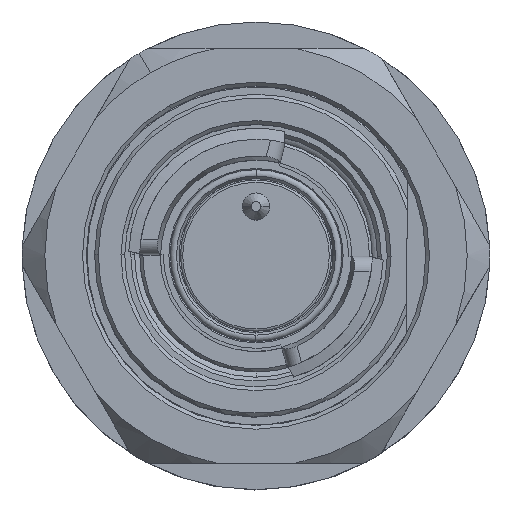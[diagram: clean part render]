
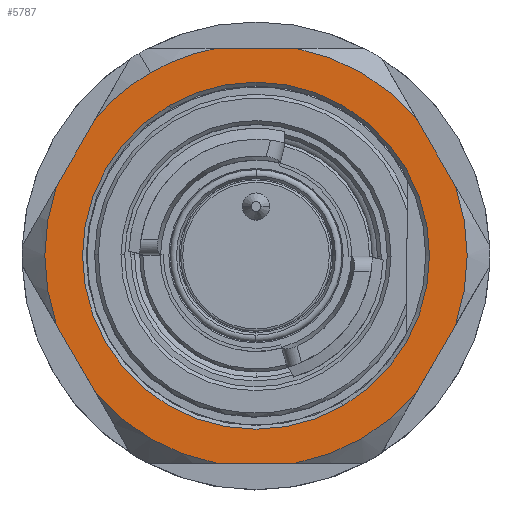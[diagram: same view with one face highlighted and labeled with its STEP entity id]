
A CAD part, top view. The second image highlights one B-rep face of the part: STEP entity #5787.
In plain terms, the highlighted planar face has unit normal (0, 0, 1).
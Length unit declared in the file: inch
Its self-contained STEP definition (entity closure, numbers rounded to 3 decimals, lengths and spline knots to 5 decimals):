
#9 = LINE ( 'NONE', #99, #1704 ) ;
#99 = CARTESIAN_POINT ( 'NONE',  ( 0.3921, 0.54134, -0.30913 ) ) ;
#231 = VECTOR ( 'NONE', #11286, 39.37008 ) ;
#314 = CARTESIAN_POINT ( 'NONE',  ( 0., 0., -0.30913 ) ) ;
#691 = AXIS2_PLACEMENT_3D ( 'NONE', #1416, #9750, #5519 ) ;
#792 = VECTOR ( 'NONE', #2327, 39.37008 ) ;
#926 = ORIENTED_EDGE ( 'NONE', *, *, #13370, .T. ) ;
#1072 = FACE_OUTER_BOUND ( 'NONE', #4612, .T. ) ;
#1138 = AXIS2_PLACEMENT_3D ( 'NONE', #14038, #4099, #1264 ) ;
#1141 = EDGE_CURVE ( 'NONE', #16797, #16583, #6924, .T. ) ;
#1264 = DIRECTION ( 'NONE',  ( 0.5, -0.866, 0. ) ) ;
#1266 = CARTESIAN_POINT ( 'NONE',  ( -0.41696, 0.36047, -0.30913 ) ) ;
#1416 = CARTESIAN_POINT ( 'NONE',  ( 0., 0., -0.30913 ) ) ;
#1528 = CARTESIAN_POINT ( 'NONE',  ( 0., 0., -0.30913 ) ) ;
#1704 = VECTOR ( 'NONE', #15745, 39.37008 ) ;
#1745 = CARTESIAN_POINT ( 'NONE',  ( 0.52066, 0.18086, -0.30913 ) ) ;
#1994 = DIRECTION ( 'NONE',  ( 0., 0., 1. ) ) ;
#2213 = EDGE_CURVE ( 'NONE', #14627, #16583, #15038, .T. ) ;
#2229 = DIRECTION ( 'NONE',  ( 0.5, -0.866, 0. ) ) ;
#2280 = AXIS2_PLACEMENT_3D ( 'NONE', #10238, #1994, #16009 ) ;
#2308 = ORIENTED_EDGE ( 'NONE', *, *, #17392, .F. ) ;
#2327 = DIRECTION ( 'NONE',  ( -0.5, -0.866, 0. ) ) ;
#2420 = DIRECTION ( 'NONE',  ( 0., 0., 1. ) ) ;
#2472 = VERTEX_POINT ( 'NONE', #6674 ) ;
#2512 = CARTESIAN_POINT ( 'NONE',  ( -0.52066, -0.18086, -0.30913 ) ) ;
#2551 = DIRECTION ( 'NONE',  ( -0.5, 0.866, 0. ) ) ;
#2714 = CARTESIAN_POINT ( 'NONE',  ( 0.41696, 0.36047, -0.30913 ) ) ;
#2784 = ORIENTED_EDGE ( 'NONE', *, *, #5413, .F. ) ;
#2816 = EDGE_CURVE ( 'NONE', #6876, #5776, #11017, .T. ) ;
#2836 = AXIS2_PLACEMENT_3D ( 'NONE', #14931, #10910, #7917 ) ;
#3266 = LINE ( 'NONE', #7021, #8250 ) ;
#3956 = CARTESIAN_POINT ( 'NONE',  ( 0.46881, 0.27067, -0.30913 ) ) ;
#4022 = VERTEX_POINT ( 'NONE', #10546 ) ;
#4069 = CARTESIAN_POINT ( 'NONE',  ( 0., 0., -0.30913 ) ) ;
#4099 = DIRECTION ( 'NONE',  ( 0., 0., 1. ) ) ;
#4166 = AXIS2_PLACEMENT_3D ( 'NONE', #1528, #16719, #5731 ) ;
#4226 = EDGE_CURVE ( 'NONE', #4022, #5776, #4600, .T. ) ;
#4253 = ORIENTED_EDGE ( 'NONE', *, *, #6330, .F. ) ;
#4508 = ORIENTED_EDGE ( 'NONE', *, *, #16759, .T. ) ;
#4600 = CIRCLE ( 'NONE', #2836, 0.55118 ) ;
#4612 = EDGE_LOOP ( 'NONE', ( #10849, #12597, #10783, #12573, #4253, #926, #2784, #5631, #15167, #14338, #4508, #2308, #10969 ) ) ;
#4733 = CARTESIAN_POINT ( 'NONE',  ( -0.1037, 0.54134, -0.30913 ) ) ;
#4961 = VERTEX_POINT ( 'NONE', #2714 ) ;
#5137 = VERTEX_POINT ( 'NONE', #14796 ) ;
#5337 = VERTEX_POINT ( 'NONE', #17641 ) ;
#5413 = EDGE_CURVE ( 'NONE', #16617, #2472, #9, .T. ) ;
#5519 = DIRECTION ( 'NONE',  ( 0.5, -0.866, 0. ) ) ;
#5631 = ORIENTED_EDGE ( 'NONE', *, *, #13071, .T. ) ;
#5639 = EDGE_CURVE ( 'NONE', #5337, #9444, #11630, .T. ) ;
#5658 = AXIS2_PLACEMENT_3D ( 'NONE', #314, #5987, #5903 ) ;
#5731 = DIRECTION ( 'NONE',  ( 0.5, -0.866, 0. ) ) ;
#5776 = VERTEX_POINT ( 'NONE', #1266 ) ;
#5787 = ADVANCED_FACE ( 'NONE', ( #9423, #1072 ), #14877, .F. ) ;
#5903 = DIRECTION ( 'NONE',  ( 0.5, -0.866, 0. ) ) ;
#5987 = DIRECTION ( 'NONE',  ( 0., 0., 1. ) ) ;
#6170 = AXIS2_PLACEMENT_3D ( 'NONE', #11988, #13538, #2229 ) ;
#6330 = EDGE_CURVE ( 'NONE', #4961, #9076, #13523, .T. ) ;
#6342 = CARTESIAN_POINT ( 'NONE',  ( 0.66486, 0.0689, -0.30913 ) ) ;
#6520 = EDGE_LOOP ( 'NONE', ( #17783, #9332 ) ) ;
#6561 = DIRECTION ( 'NONE',  ( 0., 0., -1. ) ) ;
#6615 = CARTESIAN_POINT ( 'NONE',  ( 0., 0., -0.30913 ) ) ;
#6674 = CARTESIAN_POINT ( 'NONE',  ( 0.1037, 0.54134, -0.30913 ) ) ;
#6754 = CARTESIAN_POINT ( 'NONE',  ( 0.3921, 0.22638, -0.30913 ) ) ;
#6876 = VERTEX_POINT ( 'NONE', #16274 ) ;
#6923 = EDGE_CURVE ( 'NONE', #9444, #5337, #7861, .T. ) ;
#6924 = CIRCLE ( 'NONE', #13598, 0.55118 ) ;
#7021 = CARTESIAN_POINT ( 'NONE',  ( 0.3921, -0.54134, -0.30913 ) ) ;
#7131 = CARTESIAN_POINT ( 'NONE',  ( -0.46881, -0.27067, -0.30913 ) ) ;
#7222 = DIRECTION ( 'NONE',  ( -0.5, 0.866, 0. ) ) ;
#7372 = CIRCLE ( 'NONE', #6170, 0.55118 ) ;
#7724 = CIRCLE ( 'NONE', #5658, 0.55118 ) ;
#7788 = CARTESIAN_POINT ( 'NONE',  ( 0.22638, -0.3921, -0.30913 ) ) ;
#7861 = CIRCLE ( 'NONE', #1138, 0.45276 ) ;
#7917 = DIRECTION ( 'NONE',  ( 0.5, -0.866, 0. ) ) ;
#8250 = VECTOR ( 'NONE', #12553, 39.37008 ) ;
#8690 = LINE ( 'NONE', #7131, #10861 ) ;
#8726 = AXIS2_PLACEMENT_3D ( 'NONE', #6754, #6561, #2551 ) ;
#8798 = CIRCLE ( 'NONE', #4166, 0.55118 ) ;
#9076 = VERTEX_POINT ( 'NONE', #1745 ) ;
#9332 = ORIENTED_EDGE ( 'NONE', *, *, #5639, .F. ) ;
#9423 = FACE_BOUND ( 'NONE', #6520, .T. ) ;
#9444 = VERTEX_POINT ( 'NONE', #7788 ) ;
#9750 = DIRECTION ( 'NONE',  ( 0., 0., 1. ) ) ;
#10238 = CARTESIAN_POINT ( 'NONE',  ( 0., 0., -0.30913 ) ) ;
#10546 = CARTESIAN_POINT ( 'NONE',  ( -0.27559, 0.47734, -0.30913 ) ) ;
#10772 = EDGE_CURVE ( 'NONE', #14627, #9076, #15826, .T. ) ;
#10783 = ORIENTED_EDGE ( 'NONE', *, *, #2213, .F. ) ;
#10802 = DIRECTION ( 'NONE',  ( 0.5, -0.866, 0. ) ) ;
#10845 = AXIS2_PLACEMENT_3D ( 'NONE', #6615, #2420, #17758 ) ;
#10849 = ORIENTED_EDGE ( 'NONE', *, *, #12098, .F. ) ;
#10861 = VECTOR ( 'NONE', #7222, 39.37008 ) ;
#10910 = DIRECTION ( 'NONE',  ( 0., 0., 1. ) ) ;
#10969 = ORIENTED_EDGE ( 'NONE', *, *, #12554, .T. ) ;
#11017 = LINE ( 'NONE', #12627, #231 ) ;
#11286 = DIRECTION ( 'NONE',  ( 0.5, 0.866, 0. ) ) ;
#11357 = VERTEX_POINT ( 'NONE', #17428 ) ;
#11630 = CIRCLE ( 'NONE', #2280, 0.45276 ) ;
#11988 = CARTESIAN_POINT ( 'NONE',  ( 0., 0., -0.30913 ) ) ;
#12098 = EDGE_CURVE ( 'NONE', #16797, #11357, #3266, .T. ) ;
#12353 = DIRECTION ( 'NONE',  ( 0.5, -0.866, 0. ) ) ;
#12525 = DIRECTION ( 'NONE',  ( 0., 0., 1. ) ) ;
#12553 = DIRECTION ( 'NONE',  ( -1., 0., 0. ) ) ;
#12554 = EDGE_CURVE ( 'NONE', #5137, #11357, #8798, .T. ) ;
#12573 = ORIENTED_EDGE ( 'NONE', *, *, #10772, .T. ) ;
#12597 = ORIENTED_EDGE ( 'NONE', *, *, #1141, .T. ) ;
#12627 = CARTESIAN_POINT ( 'NONE',  ( -0.27276, 0.61024, -0.30913 ) ) ;
#13071 = EDGE_CURVE ( 'NONE', #16617, #4022, #14692, .T. ) ;
#13240 = CARTESIAN_POINT ( 'NONE',  ( 0.52066, -0.18086, -0.30913 ) ) ;
#13370 = EDGE_CURVE ( 'NONE', #4961, #2472, #7724, .T. ) ;
#13523 = LINE ( 'NONE', #3956, #15144 ) ;
#13538 = DIRECTION ( 'NONE',  ( 0., 0., 1. ) ) ;
#13598 = AXIS2_PLACEMENT_3D ( 'NONE', #4069, #12525, #12353 ) ;
#14038 = CARTESIAN_POINT ( 'NONE',  ( 0., 0., -0.30913 ) ) ;
#14338 = ORIENTED_EDGE ( 'NONE', *, *, #2816, .F. ) ;
#14404 = CARTESIAN_POINT ( 'NONE',  ( 0.41696, -0.36047, -0.30913 ) ) ;
#14627 = VERTEX_POINT ( 'NONE', #13240 ) ;
#14692 = CIRCLE ( 'NONE', #691, 0.55118 ) ;
#14796 = CARTESIAN_POINT ( 'NONE',  ( -0.41696, -0.36047, -0.30913 ) ) ;
#14877 = PLANE ( 'NONE',  #8726 ) ;
#14931 = CARTESIAN_POINT ( 'NONE',  ( 0., 0., -0.30913 ) ) ;
#15038 = LINE ( 'NONE', #6342, #792 ) ;
#15144 = VECTOR ( 'NONE', #10802, 39.37008 ) ;
#15167 = ORIENTED_EDGE ( 'NONE', *, *, #4226, .T. ) ;
#15745 = DIRECTION ( 'NONE',  ( 1., 0., 0. ) ) ;
#15826 = CIRCLE ( 'NONE', #10845, 0.55118 ) ;
#16009 = DIRECTION ( 'NONE',  ( 0.5, -0.866, 0. ) ) ;
#16274 = CARTESIAN_POINT ( 'NONE',  ( -0.52066, 0.18086, -0.30913 ) ) ;
#16583 = VERTEX_POINT ( 'NONE', #14404 ) ;
#16617 = VERTEX_POINT ( 'NONE', #4733 ) ;
#16719 = DIRECTION ( 'NONE',  ( 0., 0., 1. ) ) ;
#16759 = EDGE_CURVE ( 'NONE', #6876, #17976, #7372, .T. ) ;
#16797 = VERTEX_POINT ( 'NONE', #17498 ) ;
#17392 = EDGE_CURVE ( 'NONE', #5137, #17976, #8690, .T. ) ;
#17428 = CARTESIAN_POINT ( 'NONE',  ( -0.1037, -0.54134, -0.30913 ) ) ;
#17498 = CARTESIAN_POINT ( 'NONE',  ( 0.1037, -0.54134, -0.30913 ) ) ;
#17641 = CARTESIAN_POINT ( 'NONE',  ( -0.22638, 0.3921, -0.30913 ) ) ;
#17758 = DIRECTION ( 'NONE',  ( 0.5, -0.866, 0. ) ) ;
#17783 = ORIENTED_EDGE ( 'NONE', *, *, #6923, .F. ) ;
#17976 = VERTEX_POINT ( 'NONE', #2512 ) ;
